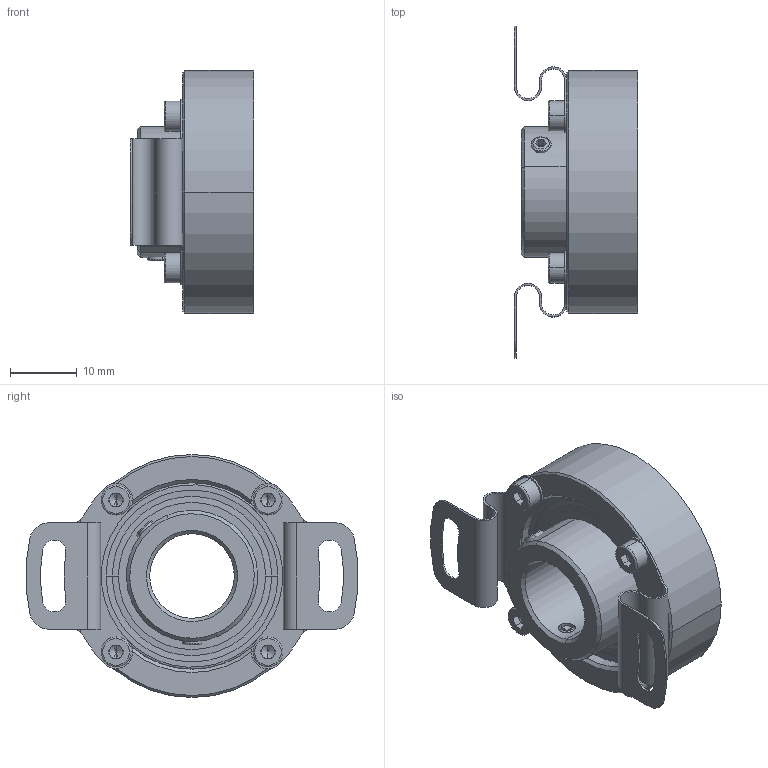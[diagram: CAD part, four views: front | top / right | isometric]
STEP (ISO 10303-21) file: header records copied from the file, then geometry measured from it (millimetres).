
FILE_DESCRIPTION (( 'STEP AP214' ), '1' );
FILE_NAME ('Drawing-UCD-ATS0-Q3A-N.STEP', '2016-10-18T14:32:59', ( '' ), ( '' ), 'SwSTEP 2.0', 'SolidWorks 2015', '' );
FILE_SCHEMA (( 'AUTOMOTIVE_DESIGN' ));
Length unit declared in the file: millimetre
Products named in the file (1): Drawing-UCD-ATS0-Q3A-N
Bounding box: 18.5 x 49.85 x 36.5 mm (x, y, z)
Volume: 9102.5 mm3; surface area: 12879.6 mm2
Topology: 27 solids, 27 shells, 399 faces, 904 edges, 516 vertices
Faces by surface type: cylinder 132, plane 117, cone 74, bspline 60, torus 16
Entity records: 16901 total; most frequent: CARTESIAN_POINT 3538, DIRECTION 1926, ORIENTED_EDGE 1688, EDGE_CURVE 844, AXIS2_PLACEMENT_3D 776, VERTEX_POINT 516, EDGE_LOOP 450, CIRCLE 436
